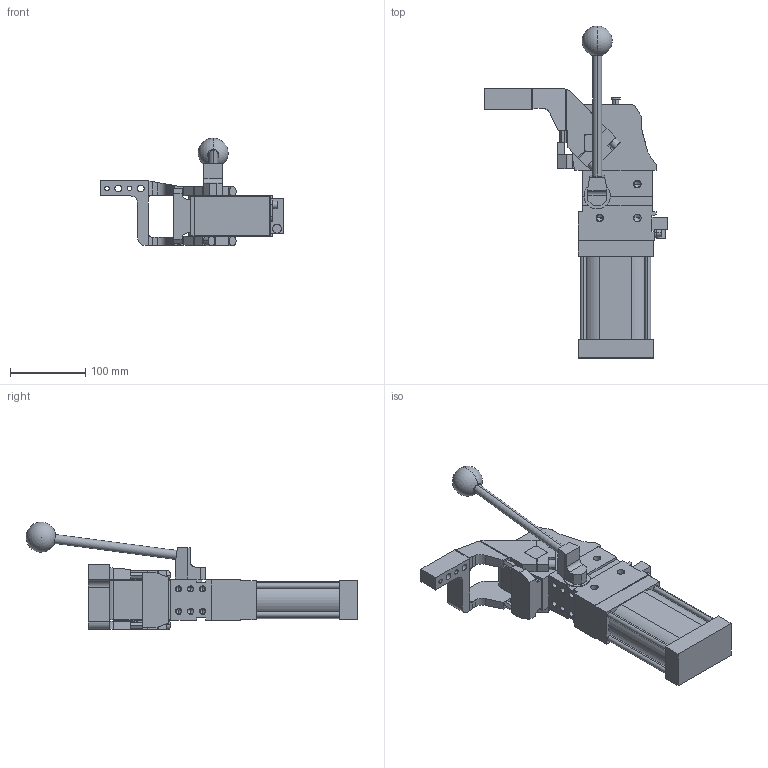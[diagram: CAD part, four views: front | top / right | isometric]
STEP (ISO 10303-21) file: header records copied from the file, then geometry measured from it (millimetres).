
FILE_DESCRIPTION (( 'STEP AP214' ), '1' );
FILE_NAME ('cplm63latv3si1g_135.STEP', '2023-01-26T15:08:35', ( '' ), ( '' ), 'SwSTEP 2.0', 'SolidWorks 2022', '' );
FILE_SCHEMA (( 'AUTOMOTIVE_DESIGN' ));
Length unit declared in the file: millimetre
Products named in the file (5): meccanica_cplm_63_tassello_esterno; cplm63latv3si1g_135; leva_v3s_cpl63t; blocchetto_VEP_0; comando_manuale_cplm_63
Assembly tree (4 placements, depth 2):
  cplm63latv3si1g_135
    meccanica_cplm_63_tassello_esterno
    blocchetto_VEP_0
    leva_v3s_cpl63t
    comando_manuale_cplm_63
Bounding box: 244.5 x 442.23 x 143.5 mm (x, y, z)
Volume: 1918233.8 mm3; surface area: 218339.1 mm2
Topology: 4 solids, 4 shells, 465 faces, 1227 edges, 765 vertices
Faces by surface type: plane 250, cylinder 163, cone 50, sphere 2
Entity records: 15625 total; most frequent: CARTESIAN_POINT 2507, DIRECTION 2467, ORIENTED_EDGE 2352, EDGE_CURVE 1176, AXIS2_PLACEMENT_3D 832, LINE 803, VECTOR 803, VERTEX_POINT 762
